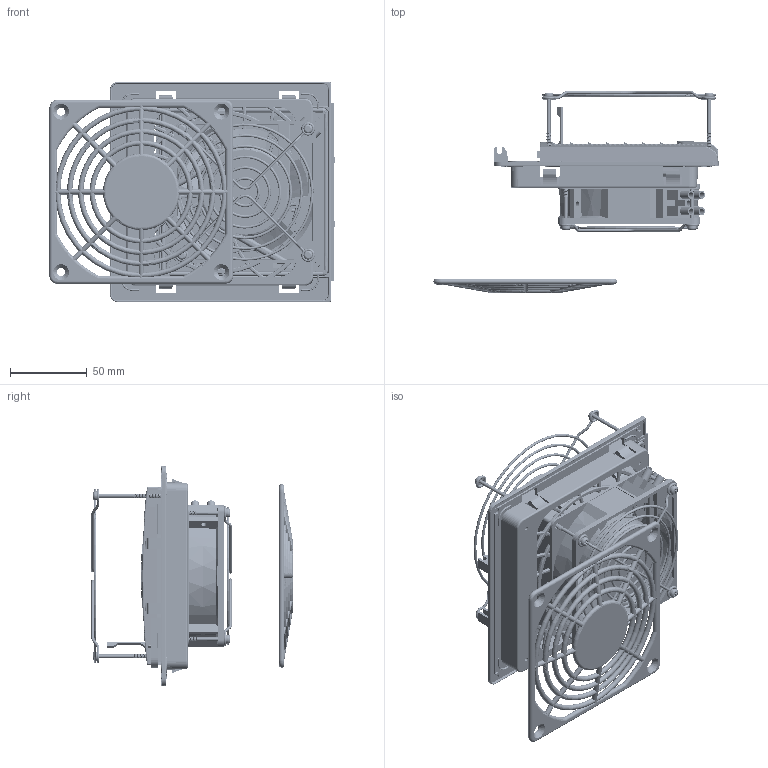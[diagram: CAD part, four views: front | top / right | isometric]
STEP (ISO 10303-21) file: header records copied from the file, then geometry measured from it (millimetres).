
FILE_DESCRIPTION(/* description */ (''),/* implementation_level */ '2;1');
FILE_NAME(/* name */ 'LK3237.stp',/* time_stamp */ '2019-05-15T14:12:50+08:00',/* author */ (''),/* organization */ (''),/* preprocessor_version */ 'ST-DEVELOPER v14',/* originating_system */ 'SIEMENS PLM Software NX 8.0',/* authorisation */ '');
FILE_SCHEMA (('AUTOMOTIVE_DESIGN { 1 0 10303 214 3 1 1 1 }'));
Products named in the file (1): Admi1CEC9C79iw57
Bounding box: 186.32 x 131.66 x 143.8 mm (x, y, z)
Volume: 306198.9 mm3; surface area: 263383.6 mm2
Topology: 19 solids, 19 shells, 6080 faces, 17368 edges, 10924 vertices
Faces by surface type: plane 1644, bspline 1242, cone 1054, cylinder 984, torus 658, sphere 434, extrusion 64
Full cylindrical faces by diameter (mm): 0.545 x1, 1.8 x24, 2.3 x4, 2.4 x7, 2.5 x4, 3.2 x2, 3.5 x41, 4.2 x9, 5.3 x4, 5.5 x4, 5.6 x2, 5.8 x1, 6 x7, 8 x1, 9 x2, 43 x1, 59 x1, 60 x1
Entity records: 351512 total; most frequent: CARTESIAN_POINT 212835, ORIENTED_EDGE 32248, DIRECTION 22850, EDGE_CURVE 16124, VERTEX_POINT 10382, AXIS2_PLACEMENT_3D 9375, B_SPLINE_CURVE_WITH_KNOTS 7538, EDGE_LOOP 6943
